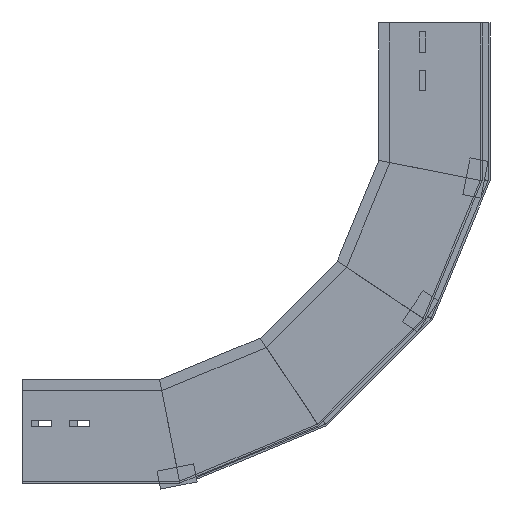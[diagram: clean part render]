
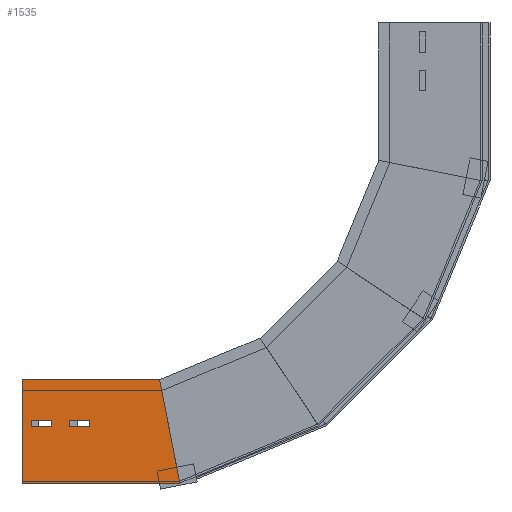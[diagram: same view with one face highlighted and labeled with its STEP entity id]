
A CAD part, left-side view. The second image highlights one B-rep face of the part: STEP entity #1535.
In plain terms, the highlighted planar face has unit normal (-1, 0, 0) as drawn and (1, 0, 0) by its records, which use the part's own axes.
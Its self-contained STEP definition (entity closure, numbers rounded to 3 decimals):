
#16 = DIRECTION ( 'NONE',  ( 0., -1., 0. ) ) ;
#22 = LINE ( 'NONE', #58, #1821 ) ;
#36 = CARTESIAN_POINT ( 'NONE',  ( 0., 68.5, -73.505 ) ) ;
#58 = CARTESIAN_POINT ( 'NONE',  ( 0., 112.5, 0. ) ) ;
#90 = EDGE_CURVE ( 'NONE', #983, #208, #376, .T. ) ;
#111 = DIRECTION ( 'NONE',  ( 0., -0.981, -0.195 ) ) ;
#144 = VERTEX_POINT ( 'NONE', #1861 ) ;
#161 = CARTESIAN_POINT ( 'NONE',  ( 0., 0., 0. ) ) ;
#198 = EDGE_CURVE ( 'NONE', #1353, #208, #580, .T. ) ;
#202 = DIRECTION ( 'NONE',  ( 0., 0., 1. ) ) ;
#208 = VERTEX_POINT ( 'NONE', #845 ) ;
#214 = ORIENTED_EDGE ( 'NONE', *, *, #1097, .T. ) ;
#215 = VECTOR ( 'NONE', #202, 1000. ) ;
#219 = CARTESIAN_POINT ( 'NONE',  ( 0., 61.5, -9.835 ) ) ;
#225 = EDGE_CURVE ( 'NONE', #806, #1728, #286, .T. ) ;
#233 = CARTESIAN_POINT ( 'NONE',  ( 0., 68.5, -73.505 ) ) ;
#237 = EDGE_CURVE ( 'NONE', #1401, #983, #22, .T. ) ;
#242 = CARTESIAN_POINT ( 'NONE',  ( 0., 61.5, -51.505 ) ) ;
#244 = ORIENTED_EDGE ( 'NONE', *, *, #1018, .T. ) ;
#269 = CARTESIAN_POINT ( 'NONE',  ( 0., 0., 0. ) ) ;
#286 = LINE ( 'NONE', #999, #1792 ) ;
#300 = EDGE_LOOP ( 'NONE', ( #1138, #784, #1791, #360 ) ) ;
#329 = EDGE_CURVE ( 'NONE', #1100, #452, #1344, .T. ) ;
#360 = ORIENTED_EDGE ( 'NONE', *, *, #90, .F. ) ;
#372 = LINE ( 'NONE', #387, #1841 ) ;
#376 = LINE ( 'NONE', #826, #1052 ) ;
#387 = CARTESIAN_POINT ( 'NONE',  ( 0., 0., 0. ) ) ;
#419 = VECTOR ( 'NONE', #1651, 1000. ) ;
#433 = CARTESIAN_POINT ( 'NONE',  ( 0., 112.5, -149.722 ) ) ;
#452 = VERTEX_POINT ( 'NONE', #242 ) ;
#472 = FACE_OUTER_BOUND ( 'NONE', #300, .T. ) ;
#485 = CARTESIAN_POINT ( 'NONE',  ( 0., 68.5, -9.835 ) ) ;
#514 = DIRECTION ( 'NONE',  ( 0., 1., 0. ) ) ;
#519 = VERTEX_POINT ( 'NONE', #233 ) ;
#530 = DIRECTION ( 'NONE',  ( 0., 0., 1. ) ) ;
#545 = ORIENTED_EDGE ( 'NONE', *, *, #329, .T. ) ;
#580 = LINE ( 'NONE', #269, #747 ) ;
#581 = VECTOR ( 'NONE', #1063, 1000. ) ;
#620 = FACE_BOUND ( 'NONE', #1691, .T. ) ;
#657 = ORIENTED_EDGE ( 'NONE', *, *, #957, .T. ) ;
#659 = DIRECTION ( 'NONE',  ( 0., 1., 0. ) ) ;
#723 = ORIENTED_EDGE ( 'NONE', *, *, #913, .T. ) ;
#736 = LINE ( 'NONE', #36, #773 ) ;
#747 = VECTOR ( 'NONE', #1021, 1000. ) ;
#773 = VECTOR ( 'NONE', #16, 1000. ) ;
#784 = ORIENTED_EDGE ( 'NONE', *, *, #810, .F. ) ;
#792 = LINE ( 'NONE', #485, #581 ) ;
#806 = VERTEX_POINT ( 'NONE', #1402 ) ;
#810 = EDGE_CURVE ( 'NONE', #1353, #1401, #372, .T. ) ;
#826 = CARTESIAN_POINT ( 'NONE',  ( 0., 32.93, -165.55 ) ) ;
#843 = CARTESIAN_POINT ( 'NONE',  ( 0., 68.5, -31.835 ) ) ;
#845 = CARTESIAN_POINT ( 'NONE',  ( 0., 0., -172.1 ) ) ;
#846 = ORIENTED_EDGE ( 'NONE', *, *, #1405, .T. ) ;
#856 = DIRECTION ( 'NONE',  ( 0., 0., -1. ) ) ;
#865 = CARTESIAN_POINT ( 'NONE',  ( 0., 68.5, -31.835 ) ) ;
#885 = EDGE_CURVE ( 'NONE', #452, #1261, #1221, .T. ) ;
#899 = CARTESIAN_POINT ( 'NONE',  ( 0., 61.5, -73.505 ) ) ;
#913 = EDGE_CURVE ( 'NONE', #946, #806, #792, .T. ) ;
#932 = EDGE_LOOP ( 'NONE', ( #723, #1243, #657, #244 ) ) ;
#946 = VERTEX_POINT ( 'NONE', #219 ) ;
#957 = EDGE_CURVE ( 'NONE', #1728, #144, #1425, .T. ) ;
#983 = VERTEX_POINT ( 'NONE', #433 ) ;
#987 = AXIS2_PLACEMENT_3D ( 'NONE', #161, #1515, #1210 ) ;
#999 = CARTESIAN_POINT ( 'NONE',  ( 0., 68.5, -9.835 ) ) ;
#1018 = EDGE_CURVE ( 'NONE', #144, #946, #1569, .T. ) ;
#1021 = DIRECTION ( 'NONE',  ( 0., 0., -1. ) ) ;
#1052 = VECTOR ( 'NONE', #111, 1000. ) ;
#1060 = FACE_BOUND ( 'NONE', #932, .T. ) ;
#1063 = DIRECTION ( 'NONE',  ( 0., 1., 0. ) ) ;
#1097 = EDGE_CURVE ( 'NONE', #519, #1100, #736, .T. ) ;
#1100 = VERTEX_POINT ( 'NONE', #899 ) ;
#1138 = ORIENTED_EDGE ( 'NONE', *, *, #237, .F. ) ;
#1165 = VECTOR ( 'NONE', #659, 1000. ) ;
#1179 = DIRECTION ( 'NONE',  ( 0., 0., -1. ) ) ;
#1208 = CARTESIAN_POINT ( 'NONE',  ( 0., 61.5, -51.505 ) ) ;
#1210 = DIRECTION ( 'NONE',  ( 0., 0., 1. ) ) ;
#1219 = CARTESIAN_POINT ( 'NONE',  ( 0., 68.5, -51.505 ) ) ;
#1221 = LINE ( 'NONE', #1796, #1165 ) ;
#1243 = ORIENTED_EDGE ( 'NONE', *, *, #225, .T. ) ;
#1246 = VECTOR ( 'NONE', #530, 1000. ) ;
#1261 = VERTEX_POINT ( 'NONE', #1379 ) ;
#1344 = LINE ( 'NONE', #1208, #215 ) ;
#1353 = VERTEX_POINT ( 'NONE', #1813 ) ;
#1362 = PLANE ( 'NONE',  #987 ) ;
#1379 = CARTESIAN_POINT ( 'NONE',  ( 0., 68.5, -51.505 ) ) ;
#1393 = VECTOR ( 'NONE', #1692, 1000. ) ;
#1401 = VERTEX_POINT ( 'NONE', #1664 ) ;
#1402 = CARTESIAN_POINT ( 'NONE',  ( 0., 68.5, -9.835 ) ) ;
#1405 = EDGE_CURVE ( 'NONE', #1261, #519, #1516, .T. ) ;
#1425 = LINE ( 'NONE', #843, #1393 ) ;
#1447 = CARTESIAN_POINT ( 'NONE',  ( 0., 61.5, -9.835 ) ) ;
#1515 = DIRECTION ( 'NONE',  ( -1., 0., 0. ) ) ;
#1516 = LINE ( 'NONE', #1219, #419 ) ;
#1535 = ADVANCED_FACE ( 'NONE', ( #620, #472, #1060 ), #1362, .F. ) ;
#1569 = LINE ( 'NONE', #1447, #1246 ) ;
#1615 = ORIENTED_EDGE ( 'NONE', *, *, #885, .T. ) ;
#1651 = DIRECTION ( 'NONE',  ( 0., 0., -1. ) ) ;
#1664 = CARTESIAN_POINT ( 'NONE',  ( 0., 112.5, 0. ) ) ;
#1691 = EDGE_LOOP ( 'NONE', ( #1615, #846, #214, #545 ) ) ;
#1692 = DIRECTION ( 'NONE',  ( 0., -1., 0. ) ) ;
#1728 = VERTEX_POINT ( 'NONE', #865 ) ;
#1791 = ORIENTED_EDGE ( 'NONE', *, *, #198, .T. ) ;
#1792 = VECTOR ( 'NONE', #856, 1000. ) ;
#1796 = CARTESIAN_POINT ( 'NONE',  ( 0., 68.5, -51.505 ) ) ;
#1813 = CARTESIAN_POINT ( 'NONE',  ( 0., 0., 0. ) ) ;
#1821 = VECTOR ( 'NONE', #1179, 1000. ) ;
#1841 = VECTOR ( 'NONE', #514, 1000. ) ;
#1861 = CARTESIAN_POINT ( 'NONE',  ( 0., 61.5, -31.835 ) ) ;
